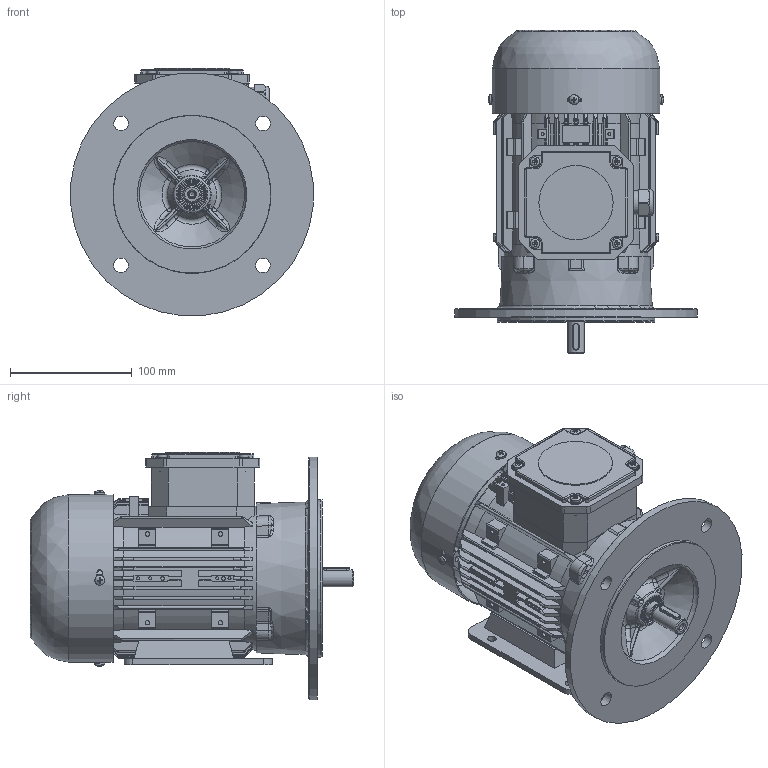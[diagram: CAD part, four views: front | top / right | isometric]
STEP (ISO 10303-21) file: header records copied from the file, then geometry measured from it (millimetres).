
FILE_DESCRIPTION(/* description */ (''),/* implementation_level */ '2;1');
FILE_NAME(/* name */ 'OUTLOOK VIEW QH71 PA B35 - BIGGER FF165 SPL.stp',/* time_stamp */ '2021-09-21T11:49:45+03:00',/* author */ (''),/* organization */ (''),/* preprocessor_version */ 'ST-DEVELOPER v16',/* originating_system */ 'SIEMENS PLM Software NX 11.0',/* authorisation */ '');
FILE_SCHEMA (('AUTOMOTIVE_DESIGN { 1 0 10303 214 3 1 1 1 }'));
Products named in the file (1): 260652D491E0rvtp
Bounding box: 199.25 x 265.66 x 203.12 mm (x, y, z)
Volume: 941028.2 mm3; surface area: 514365.5 mm2
Topology: 50 solids, 56 shells, 2981 faces, 7922 edges, 5031 vertices
Faces by surface type: plane 1248, cylinder 816, bspline 405, cone 288, torus 135, sphere 70, extrusion 19
Full cylindrical faces by diameter (mm): 1.7 x2, 2.5 x12, 3 x4, 3.15 x1, 3.3 x9, 3.65 x12, 3.7 x3, 4 x9, 4.2 x5, 4.5 x4, 4.6 x2, 4.65 x4, 4.8 x4, 5 x4, 5.1 x1, 5.2 x4, 5.3 x1, 5.5 x1, 7 x4, 8 x9, 12 x4, 13 x1, 13.4 x1, 14 x2, 14.3 x1, 14.4 x2, 15 x6, 15.2 x1, 15.5 x1, 16.9 x1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
Entity records: 103176 total; most frequent: CARTESIAN_POINT 32860, ORIENTED_EDGE 14644, DIRECTION 13367, EDGE_CURVE 7322, AXIS2_PLACEMENT_3D 5083, VERTEX_POINT 4916, EDGE_LOOP 3634, VECTOR 3201
